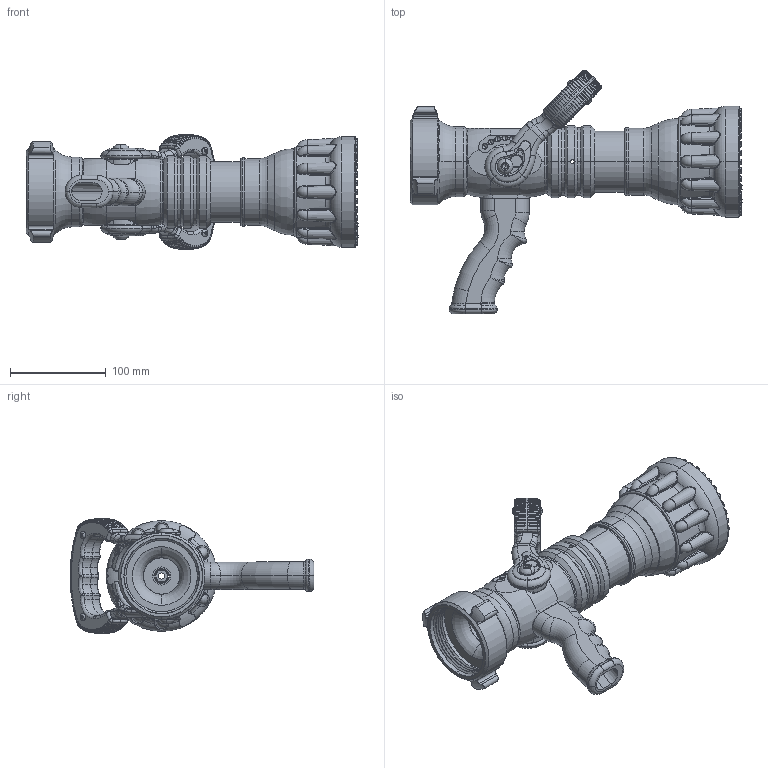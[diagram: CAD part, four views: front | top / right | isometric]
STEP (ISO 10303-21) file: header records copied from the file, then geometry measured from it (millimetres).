
FILE_DESCRIPTION (( 'STEP AP203' ), '1' );
FILE_NAME ('H-2VPGI.step', '2014-05-13T19:35:56', ( 'user' ), ( '' ), 'SwSTEP 2.0', 'SolidWorks 2012', '' );
FILE_SCHEMA (( 'CONFIG_CONTROL_DESIGN' ));
Products named in the file (1): H-2VPGI
Bounding box: 346.58 x 254.42 x 120.41 mm (x, y, z)
Surface area: 229555.3 mm2 (no closed solid volume)
Topology: 0 solids, 45 shells, 2512 faces, 8995 edges, 6159 vertices
Faces by surface type: bspline 835, cylinder 591, plane 515, torus 404, cone 124, sphere 43
Entity records: 138591 total; most frequent: CARTESIAN_POINT 74151, ORIENTED_EDGE 14846, DIRECTION 10072, EDGE_CURVE 8979, VERTEX_POINT 6158, B_SPLINE_CURVE_WITH_KNOTS 4613, AXIS2_PLACEMENT_3D 4142, EDGE_LOOP 2566
